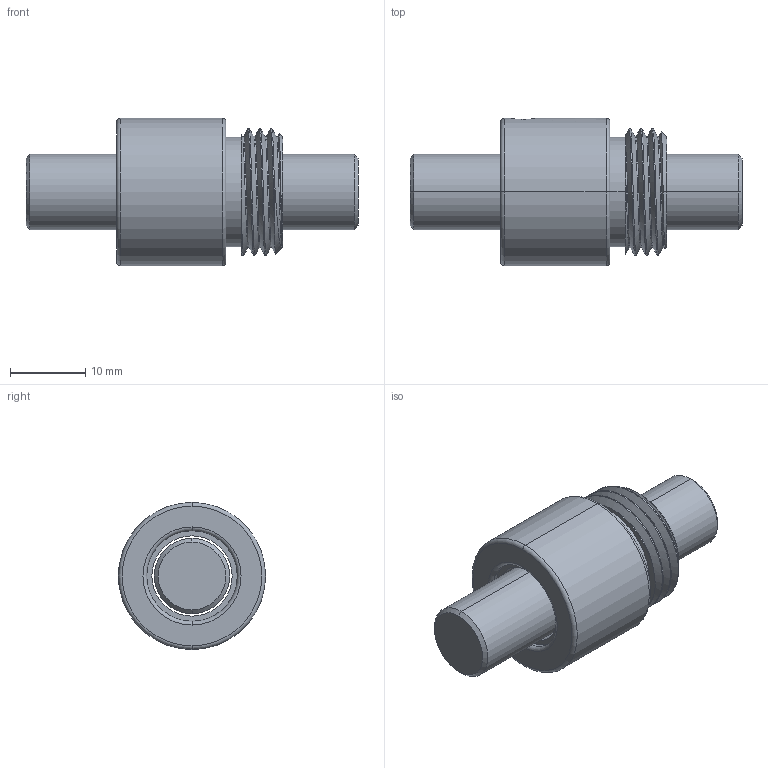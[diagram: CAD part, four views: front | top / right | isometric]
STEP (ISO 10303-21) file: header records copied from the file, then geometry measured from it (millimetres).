
FILE_DESCRIPTION (( 'STEP AP203' ), '1' );
FILE_NAME ('BSHR01002C1-C.STEP', '2020-06-17T06:55:25', ( '' ), ( '' ), 'SwSTEP 2.0', 'SolidWorks 2013', '' );
FILE_SCHEMA (( 'CONFIG_CONTROL_DESIGN' ));
Length unit declared in the file: millimetre
Products named in the file (1): BSHR01002C1-C
Bounding box: 44 x 19.5 x 19.5 mm (x, y, z)
Volume: 7138.1 mm3; surface area: 4145.2 mm2
Topology: 2 solids, 2 shells, 56 faces, 129 edges, 80 vertices
Faces by surface type: cylinder 29, plane 9, cone 8, torus 8, bspline 2
Entity records: 2219 total; most frequent: CARTESIAN_POINT 944, ORIENTED_EDGE 254, DIRECTION 252, EDGE_CURVE 127, AXIS2_PLACEMENT_3D 107, VERTEX_POINT 80, EDGE_LOOP 63, ADVANCED_FACE 56
